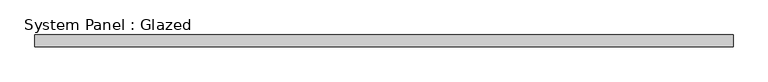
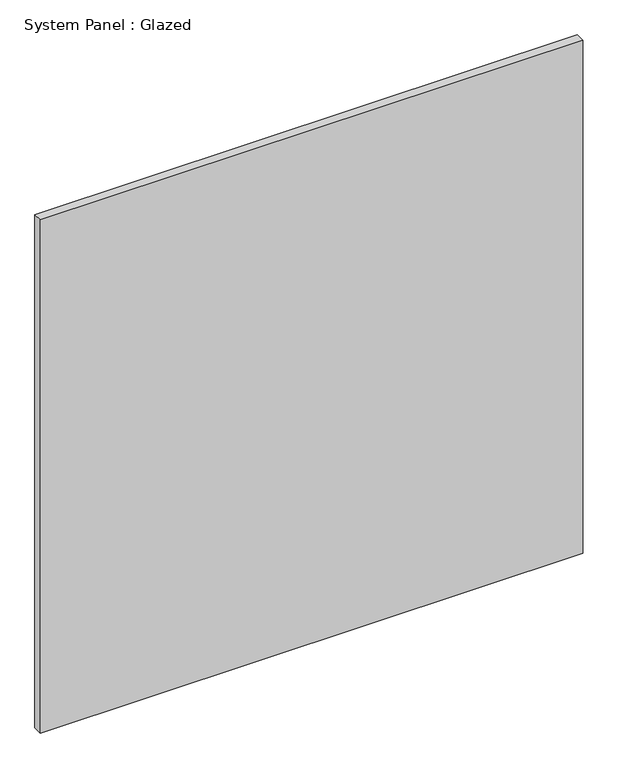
"""IFC4 building model written with IfcOpenShell, lengths in millimetres: plate geometry, System Panel : Glazed."""

from ifc_helpers import new_model, si_unit, origin, origin_with_axes, place, context, project, spatial, polyline, outline, extrude, source, transform, mapped, element, save


def system_panel_glazed_f1e4c5b0(model_context):
    return source(origin(), model_context, "Body", "SweptSolid", [
        extrude(outline(polyline([(742.95, 19.05), (-742.95, 19.05), (-742.95, 44.45), (742.95, 44.45), (742.95, 19.05)])), origin_with_axes(), (0.0, 0.0, 1.0), 1485.9),
    ])


if __name__ == "__main__":
    model = new_model("IFC4")
    model_context = context("Model", 3, world=origin())
    ifc_project = project(units=[si_unit("LENGTHUNIT", "METRE", prefix="MILLI")], contexts=[model_context])
    site = spatial("IfcSite", under=ifc_project)
    building = spatial("IfcBuilding", under=site)
    placement = place(None, origin())
    system_panel_glazed_shape = system_panel_glazed_f1e4c5b0(model_context)
    element("IfcPlate", 1, ObjectType="System Panel : Glazed", at=placement, inside=building, context=model_context, shape_type="MappedRepresentation", body=[
        mapped(system_panel_glazed_shape, transform((0.0, 0.0, 0.0), x_axis=(1.0, 0.0, 0.0), y_axis=(0.0, 1.0, 0.0), z_axis=(0.0, 0.0, 1.0))),
    ])
    save(model, "model.ifc")
